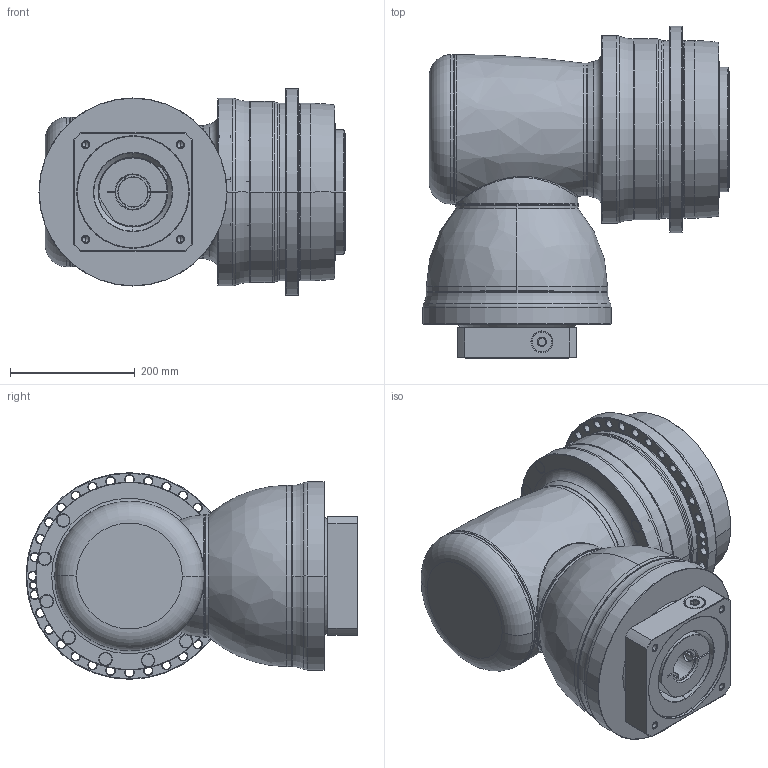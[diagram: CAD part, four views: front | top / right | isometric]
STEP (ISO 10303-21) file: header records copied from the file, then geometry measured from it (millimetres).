
FILE_DESCRIPTION((''),'2;1');
FILE_NAME('APK285_2ST_SBG_48-P0409B10201_ASM','2018-10-30T',('d01226'),(''),'PRO/ENGINEER BY PARAMETRIC TECHNOLOGY CORPORATION, 2015240','PRO/ENGINEER BY PARAMETRIC TECHNOLOGY CORPORATION, 2015240','');
FILE_SCHEMA(('CONFIG_CONTROL_DESIGN'));
Length unit declared in the file: millimetre
Products named in the file (13): P0278801003; P0359801103; P1211800001; P1802810001; P1018800002; P1365800001; P1007801001; P1318810301; P0503B00016; P0912853001; P0409B10201; 21711426021; APK285_2ST_SBG_48-P0409B10201_ASM
Assembly tree (12 placements, depth 2):
  APK285_2ST_SBG_48-P0409B10201_ASM
    P0278801003
    P0359801103
    P1211800001
    P1802810001
    P1018800002
    P1365800001
    P1007801001
    P1318810301
    P0503B00016
    P0912853001
    P0409B10201
    21711426021
Bounding box: 491.5 x 533 x 332 mm (x, y, z)
Volume: 38711980.4 mm3; surface area: 2030431.6 mm2
Topology: 13 solids, 36 shells, 903 faces, 2051 edges, 1244 vertices
Faces by surface type: cylinder 369, cone 272, plane 151, torus 80, bspline 30, sphere 1
Entity records: 32092 total; most frequent: CARTESIAN_POINT 10948, DIRECTION 4871, ORIENTED_EDGE 3936, AXIS2_PLACEMENT_3D 2082, EDGE_CURVE 2015, VERTEX_POINT 1244, CIRCLE 1172, EDGE_LOOP 1093
